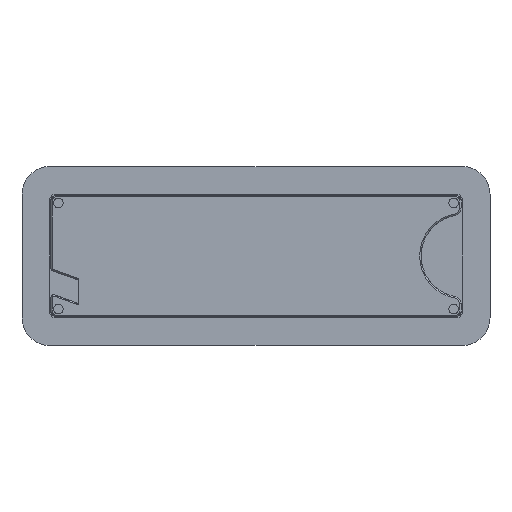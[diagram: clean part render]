
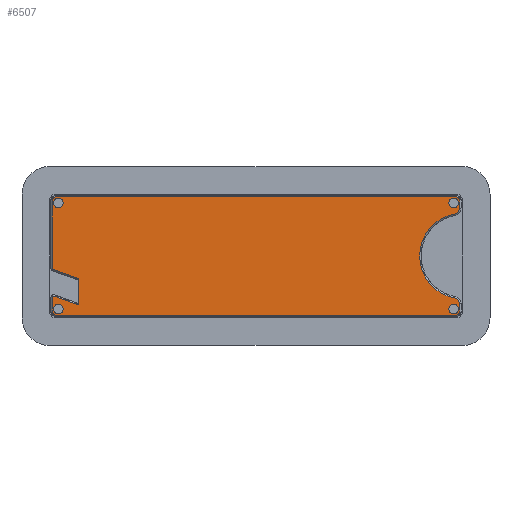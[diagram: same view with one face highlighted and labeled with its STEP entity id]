
A CAD part, front view. The second image highlights one B-rep face of the part: STEP entity #6507.
In plain terms, the highlighted planar face has unit normal (0, -1, 0).
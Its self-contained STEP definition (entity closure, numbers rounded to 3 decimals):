
#408=FACE_BOUND('',#1312,.T.);
#409=FACE_BOUND('',#1313,.T.);
#410=FACE_BOUND('',#1314,.T.);
#411=FACE_BOUND('',#1315,.T.);
#567=PLANE('',#7091);
#923=FACE_OUTER_BOUND('',#1311,.T.);
#1311=EDGE_LOOP('',(#5943,#5944,#5945,#5946,#5947,#5948,#5949,#5950,#5951,
#5952,#5953,#5954,#5955,#5956,#5957,#5958,#5959,#5960));
#1312=EDGE_LOOP('',(#5961));
#1313=EDGE_LOOP('',(#5962));
#1314=EDGE_LOOP('',(#5963));
#1315=EDGE_LOOP('',(#5964));
#1793=LINE('',#13014,#2358);
#1796=LINE('',#13025,#2361);
#1800=LINE('',#13037,#2365);
#1804=LINE('',#13049,#2369);
#1808=LINE('',#13064,#2373);
#1812=LINE('',#13076,#2377);
#1816=LINE('',#13088,#2381);
#1820=LINE('',#13100,#2385);
#1897=LINE('',#13480,#2462);
#2358=VECTOR('',#8342,10.);
#2361=VECTOR('',#8353,10.);
#2365=VECTOR('',#8365,10.);
#2369=VECTOR('',#8377,10.);
#2373=VECTOR('',#8395,10.);
#2377=VECTOR('',#8407,10.);
#2381=VECTOR('',#8419,10.);
#2385=VECTOR('',#8431,10.);
#2462=VECTOR('',#8666,10.);
#2615=CIRCLE('',#6979,15.5);
#2618=CIRCLE('',#6984,0.5);
#2619=CIRCLE('',#6987,1.5);
#2621=CIRCLE('',#6991,1.5);
#2624=CIRCLE('',#6996,2.5);
#2626=CIRCLE('',#6999,2.5);
#2627=CIRCLE('',#7002,1.5);
#2629=CIRCLE('',#7006,1.5);
#2632=CIRCLE('',#7011,0.5);
#2667=CIRCLE('',#7080,1.75);
#2669=CIRCLE('',#7083,1.75);
#2671=CIRCLE('',#7086,1.75);
#2673=CIRCLE('',#7089,1.75);
#3151=VERTEX_POINT('',#12999);
#3152=VERTEX_POINT('',#13001);
#3154=VERTEX_POINT('',#13007);
#3157=VERTEX_POINT('',#13012);
#3159=VERTEX_POINT('',#13018);
#3161=VERTEX_POINT('',#13023);
#3163=VERTEX_POINT('',#13029);
#3165=VERTEX_POINT('',#13035);
#3167=VERTEX_POINT('',#13041);
#3169=VERTEX_POINT('',#13047);
#3171=VERTEX_POINT('',#13057);
#3173=VERTEX_POINT('',#13062);
#3175=VERTEX_POINT('',#13068);
#3177=VERTEX_POINT('',#13074);
#3179=VERTEX_POINT('',#13080);
#3181=VERTEX_POINT('',#13086);
#3183=VERTEX_POINT('',#13093);
#3185=VERTEX_POINT('',#13098);
#3265=VERTEX_POINT('',#13457);
#3267=VERTEX_POINT('',#13463);
#3269=VERTEX_POINT('',#13469);
#3271=VERTEX_POINT('',#13475);
#4007=EDGE_CURVE('',#3151,#3152,#2615,.T.);
#4013=EDGE_CURVE('',#3157,#3154,#1793,.T.);
#4016=EDGE_CURVE('',#3159,#3157,#2618,.T.);
#4018=EDGE_CURVE('',#3161,#3159,#1796,.T.);
#4021=EDGE_CURVE('',#3163,#3161,#2619,.T.);
#4024=EDGE_CURVE('',#3165,#3163,#1800,.T.);
#4027=EDGE_CURVE('',#3167,#3165,#2621,.T.);
#4030=EDGE_CURVE('',#3169,#3167,#1804,.T.);
#4033=EDGE_CURVE('',#3152,#3169,#2624,.T.);
#4036=EDGE_CURVE('',#3171,#3151,#2626,.T.);
#4038=EDGE_CURVE('',#3173,#3171,#1808,.T.);
#4041=EDGE_CURVE('',#3175,#3173,#2627,.T.);
#4044=EDGE_CURVE('',#3177,#3175,#1812,.T.);
#4047=EDGE_CURVE('',#3179,#3177,#2629,.T.);
#4050=EDGE_CURVE('',#3181,#3179,#1816,.T.);
#4054=EDGE_CURVE('',#3183,#3181,#2632,.T.);
#4056=EDGE_CURVE('',#3185,#3183,#1820,.T.);
#4177=EDGE_CURVE('',#3265,#3265,#2667,.T.);
#4180=EDGE_CURVE('',#3267,#3267,#2669,.T.);
#4183=EDGE_CURVE('',#3269,#3269,#2671,.T.);
#4186=EDGE_CURVE('',#3271,#3271,#2673,.T.);
#4187=EDGE_CURVE('',#3185,#3154,#1897,.T.);
#5943=ORIENTED_EDGE('',*,*,#4187,.T.);
#5944=ORIENTED_EDGE('',*,*,#4013,.F.);
#5945=ORIENTED_EDGE('',*,*,#4016,.F.);
#5946=ORIENTED_EDGE('',*,*,#4018,.F.);
#5947=ORIENTED_EDGE('',*,*,#4021,.F.);
#5948=ORIENTED_EDGE('',*,*,#4024,.F.);
#5949=ORIENTED_EDGE('',*,*,#4027,.F.);
#5950=ORIENTED_EDGE('',*,*,#4030,.F.);
#5951=ORIENTED_EDGE('',*,*,#4033,.F.);
#5952=ORIENTED_EDGE('',*,*,#4007,.F.);
#5953=ORIENTED_EDGE('',*,*,#4036,.F.);
#5954=ORIENTED_EDGE('',*,*,#4038,.F.);
#5955=ORIENTED_EDGE('',*,*,#4041,.F.);
#5956=ORIENTED_EDGE('',*,*,#4044,.F.);
#5957=ORIENTED_EDGE('',*,*,#4047,.F.);
#5958=ORIENTED_EDGE('',*,*,#4050,.F.);
#5959=ORIENTED_EDGE('',*,*,#4054,.F.);
#5960=ORIENTED_EDGE('',*,*,#4056,.F.);
#5961=ORIENTED_EDGE('',*,*,#4177,.T.);
#5962=ORIENTED_EDGE('',*,*,#4180,.T.);
#5963=ORIENTED_EDGE('',*,*,#4183,.T.);
#5964=ORIENTED_EDGE('',*,*,#4186,.T.);
#6507=ADVANCED_FACE('',(#923,#408,#409,#410,#411),#567,.T.);
#6979=AXIS2_PLACEMENT_3D('',#13002,#8332,#8333);
#6984=AXIS2_PLACEMENT_3D('',#13020,#8348,#8349);
#6987=AXIS2_PLACEMENT_3D('',#13031,#8358,#8359);
#6991=AXIS2_PLACEMENT_3D('',#13043,#8370,#8371);
#6996=AXIS2_PLACEMENT_3D('',#13053,#8383,#8384);
#6999=AXIS2_PLACEMENT_3D('',#13059,#8390,#8391);
#7002=AXIS2_PLACEMENT_3D('',#13070,#8400,#8401);
#7006=AXIS2_PLACEMENT_3D('',#13082,#8412,#8413);
#7011=AXIS2_PLACEMENT_3D('',#13095,#8426,#8427);
#7080=AXIS2_PLACEMENT_3D('',#13459,#8639,#8640);
#7083=AXIS2_PLACEMENT_3D('',#13465,#8646,#8647);
#7086=AXIS2_PLACEMENT_3D('',#13471,#8653,#8654);
#7089=AXIS2_PLACEMENT_3D('',#13477,#8660,#8661);
#7091=AXIS2_PLACEMENT_3D('',#13479,#8664,#8665);
#8332=DIRECTION('center_axis',(0.,-1.,0.));
#8333=DIRECTION('ref_axis',(-1.,0.,0.));
#8342=DIRECTION('',(0.94,0.,-0.342));
#8348=DIRECTION('center_axis',(0.,1.,0.));
#8349=DIRECTION('ref_axis',(-0.574,0.,0.819));
#8353=DIRECTION('',(0.,0.,1.));
#8358=DIRECTION('center_axis',(0.,1.,0.));
#8359=DIRECTION('ref_axis',(-1.,0.,0.));
#8365=DIRECTION('',(-1.,0.,0.));
#8370=DIRECTION('center_axis',(0.,1.,0.));
#8371=DIRECTION('ref_axis',(0.,0.,-1.));
#8377=DIRECTION('',(0.,0.,-1.));
#8383=DIRECTION('center_axis',(0.,1.,0.));
#8384=DIRECTION('ref_axis',(0.772,0.,0.636));
#8390=DIRECTION('center_axis',(0.,1.,0.));
#8391=DIRECTION('ref_axis',(0.772,0.,-0.636));
#8395=DIRECTION('',(0.,0.,-1.));
#8400=DIRECTION('center_axis',(0.,1.,0.));
#8401=DIRECTION('ref_axis',(1.,0.,0.));
#8407=DIRECTION('',(1.,0.,0.));
#8412=DIRECTION('center_axis',(0.,1.,0.));
#8413=DIRECTION('ref_axis',(0.,0.,1.));
#8419=DIRECTION('',(0.,0.,1.));
#8426=DIRECTION('center_axis',(0.,1.,0.));
#8427=DIRECTION('ref_axis',(-0.819,0.,-0.574));
#8431=DIRECTION('',(-0.94,0.,0.342));
#8639=DIRECTION('center_axis',(0.,1.,0.));
#8640=DIRECTION('ref_axis',(0.,0.,-1.));
#8646=DIRECTION('center_axis',(0.,1.,0.));
#8647=DIRECTION('ref_axis',(0.,0.,-1.));
#8653=DIRECTION('center_axis',(0.,1.,0.));
#8654=DIRECTION('ref_axis',(0.,0.,1.));
#8660=DIRECTION('center_axis',(0.,1.,0.));
#8661=DIRECTION('ref_axis',(0.,0.,1.));
#8664=DIRECTION('center_axis',(0.,-1.,0.));
#8665=DIRECTION('ref_axis',(1.,0.,0.));
#8666=DIRECTION('',(0.,0.,-1.));
#12999=CARTESIAN_POINT('',(71.979,-143.,4.213));
#13001=CARTESIAN_POINT('',(71.979,-143.,-26.213));
#13002=CARTESIAN_POINT('Origin',(74.951,-143.,-11.));
#13007=CARTESIAN_POINT('',(-64.577,-143.,-28.789));
#13012=CARTESIAN_POINT('',(-73.329,-143.,-25.603));
#13014=CARTESIAN_POINT('',(-46.766,-143.,-35.272));
#13018=CARTESIAN_POINT('',(-74.,-143.,-26.073));
#13020=CARTESIAN_POINT('Origin',(-73.5,-143.,-26.073));
#13023=CARTESIAN_POINT('',(-74.,-143.,-31.));
#13025=CARTESIAN_POINT('',(-74.,-143.,-1.));
#13029=CARTESIAN_POINT('',(-72.5,-143.,-32.5));
#13031=CARTESIAN_POINT('Origin',(-72.5,-143.,-31.));
#13035=CARTESIAN_POINT('',(72.5,-143.,-32.5));
#13037=CARTESIAN_POINT('',(-36.25,-143.,-32.5));
#13041=CARTESIAN_POINT('',(74.,-143.,-31.));
#13043=CARTESIAN_POINT('Origin',(72.5,-143.,-31.));
#13047=CARTESIAN_POINT('',(74.,-143.,-28.666));
#13049=CARTESIAN_POINT('',(74.,-143.,-21.));
#13053=CARTESIAN_POINT('Origin',(71.5,-143.,-28.666));
#13057=CARTESIAN_POINT('',(74.,-143.,6.666));
#13059=CARTESIAN_POINT('Origin',(71.5,-143.,6.666));
#13062=CARTESIAN_POINT('',(74.,-143.,9.));
#13064=CARTESIAN_POINT('',(74.,-143.,-21.));
#13068=CARTESIAN_POINT('',(72.5,-143.,10.5));
#13070=CARTESIAN_POINT('Origin',(72.5,-143.,9.));
#13074=CARTESIAN_POINT('',(-72.5,-143.,10.5));
#13076=CARTESIAN_POINT('',(36.25,-143.,10.5));
#13080=CARTESIAN_POINT('',(-74.,-143.,9.));
#13082=CARTESIAN_POINT('Origin',(-72.5,-143.,9.));
#13086=CARTESIAN_POINT('',(-74.,-143.,-15.431));
#13088=CARTESIAN_POINT('',(-74.,-143.,-1.));
#13093=CARTESIAN_POINT('',(-73.671,-143.,-15.901));
#13095=CARTESIAN_POINT('Origin',(-73.5,-143.,-15.431));
#13098=CARTESIAN_POINT('',(-64.577,-143.,-19.211));
#13100=CARTESIAN_POINT('',(-37.3,-143.,-29.139));
#13457=CARTESIAN_POINT('',(-71.793,-143.,10.043));
#13459=CARTESIAN_POINT('Origin',(-71.793,-143.,8.293));
#13463=CARTESIAN_POINT('',(71.793,-143.,10.043));
#13465=CARTESIAN_POINT('Origin',(71.793,-143.,8.293));
#13469=CARTESIAN_POINT('',(-71.793,-143.,-32.043));
#13471=CARTESIAN_POINT('Origin',(-71.793,-143.,-30.293));
#13475=CARTESIAN_POINT('',(71.793,-143.,-32.043));
#13477=CARTESIAN_POINT('Origin',(71.793,-143.,-30.293));
#13479=CARTESIAN_POINT('Origin',(0.,-143.,-11.));
#13480=CARTESIAN_POINT('',(-64.577,-143.,-19.628));
